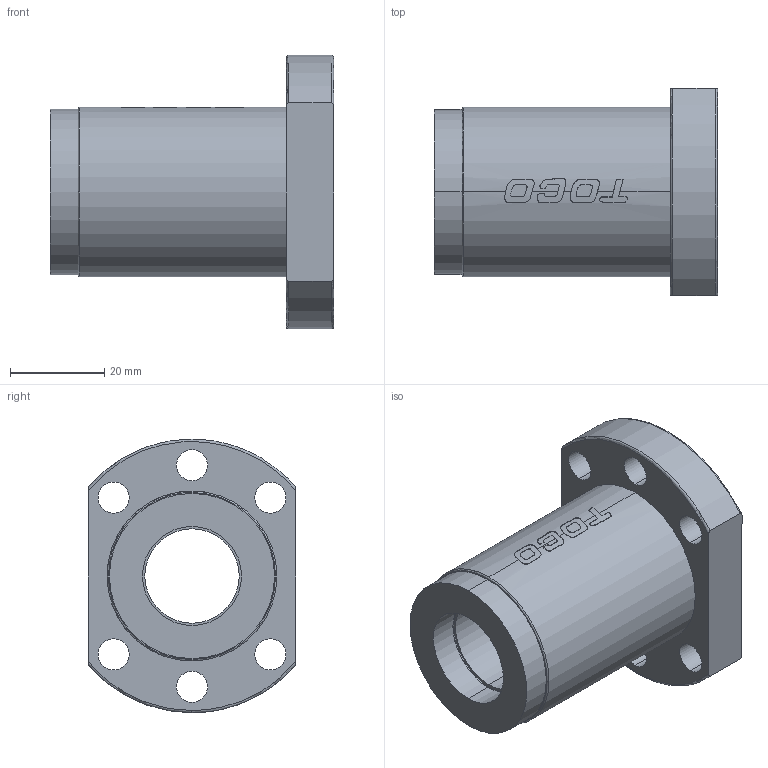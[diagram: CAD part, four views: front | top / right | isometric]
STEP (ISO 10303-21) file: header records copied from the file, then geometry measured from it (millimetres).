
FILE_DESCRIPTION (( 'STEP AP214' ), '1' );
FILE_NAME ('7.3105 STSR2010C1D.STEP', '2026-03-02T13:35:46', ( '' ), ( '' ), 'SwSTEP 2.0', 'SolidWorks 2025', '' );
FILE_SCHEMA (( 'AUTOMOTIVE_DESIGN' ));
Length unit declared in the file: millimetre
Products named in the file (1): 7.3105 STSR2010C1D
Bounding box: 60 x 44 x 58 mm (x, y, z)
Volume: 51291.7 mm3; surface area: 19692.8 mm2
Topology: 3 solids, 3 shells, 99 faces, 261 edges, 174 vertices
Faces by surface type: cylinder 39, plane 26, bspline 26, torus 8
Entity records: 12179 total; most frequent: CARTESIAN_POINT 9856, ORIENTED_EDGE 522, DIRECTION 378, EDGE_CURVE 261, VERTEX_POINT 174, AXIS2_PLACEMENT_3D 148, EDGE_LOOP 123, B_SPLINE_CURVE_WITH_KNOTS 105
